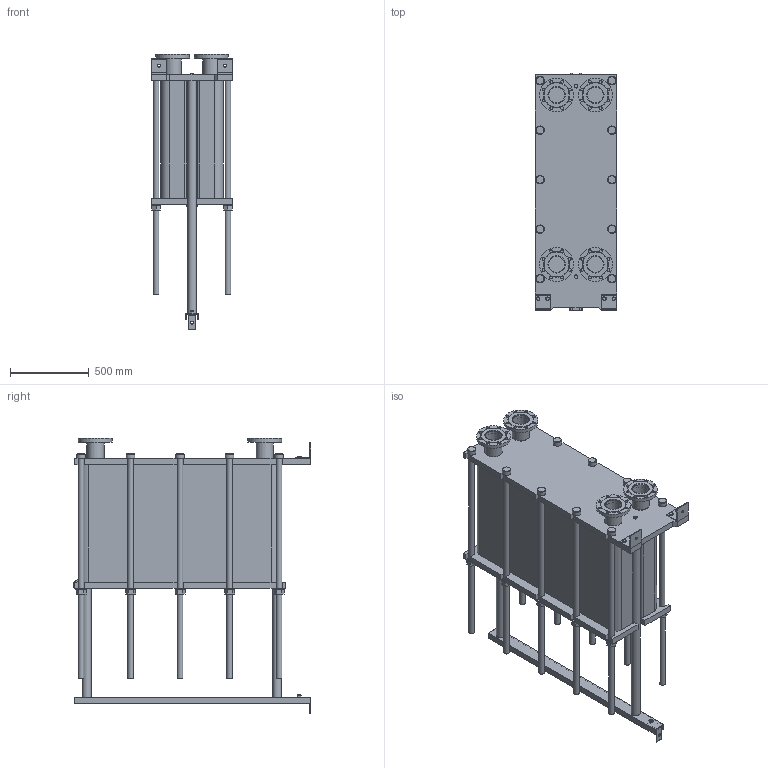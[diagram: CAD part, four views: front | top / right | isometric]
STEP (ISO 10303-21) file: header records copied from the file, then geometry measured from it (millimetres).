
FILE_DESCRIPTION(/* description */ (''),/* implementation_level */ '2;1');
FILE_NAME(/* name */ 'C:\Users\zhuro\Desktop\ENCO\TO\ЭН-04\ЭН-0,5-04-216-1.stp',/* time_stamp */ '2022-06-06T11:04:51+03:00',/* author */ ('zhuro'),/* organization */ (''),/* preprocessor_version */ 'ST-DEVELOPER v18.1',/* originating_system */ 'Autodesk Inventor 2022',/* authorisation */ '');
FILE_SCHEMA (('AUTOMOTIVE_DESIGN { 1 0 10303 214 3 1 1 }'));
Length unit declared in the file: millimetre
Products named in the file (1): ЭН-0,5-04-216-1
Bounding box: 520 x 1510 x 1753 mm (x, y, z)
Volume: 449868535.6 mm3; surface area: 10906112.9 mm2
Topology: 45 solids, 45 shells, 668 faces, 1611 edges, 1048 vertices
Faces by surface type: plane 457, cylinder 166, cone 39, torus 6
Full cylindrical faces by diameter (mm): 8 x4, 10 x2, 16 x8, 18 x35, 36 x25, 40 x2, 42 x1, 45 x4, 54 x10, 57 x2, 60 x10, 68 x2, 100 x4, 110 x8, 215 x4
Entity records: 23607 total; most frequent: CARTESIAN_POINT 7348, DIRECTION 3371, ORIENTED_EDGE 3142, EDGE_CURVE 1571, AXIS2_PLACEMENT_3D 1199, VERTEX_POINT 1044, LINE 973, VECTOR 973
